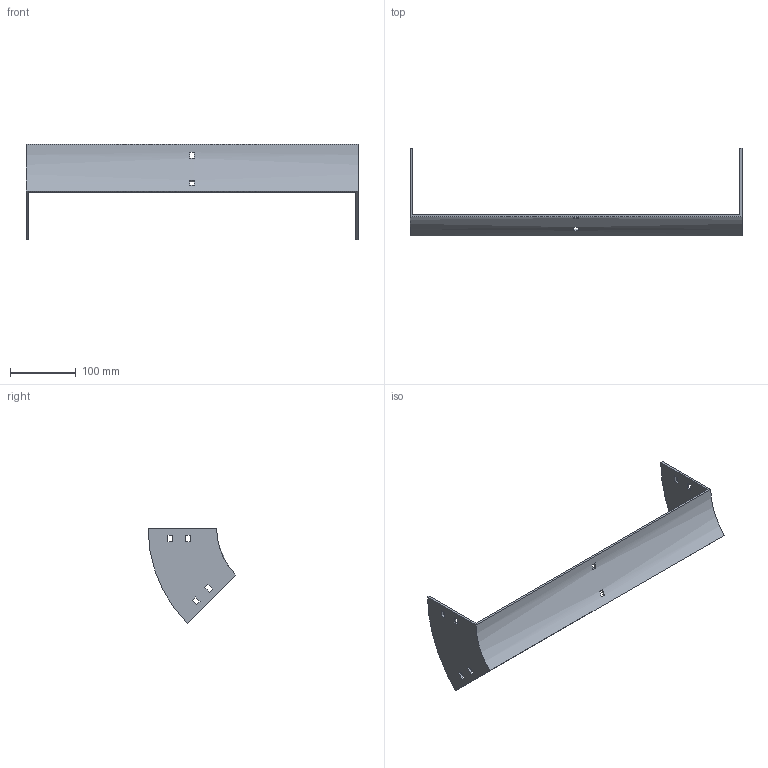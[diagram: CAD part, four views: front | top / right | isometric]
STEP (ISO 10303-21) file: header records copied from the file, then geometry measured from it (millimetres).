
FILE_DESCRIPTION (( 'STEP AP214' ), '1' );
FILE_NAME ('34B1D500.step', '2025-02-21T09:27:34', ( '' ), ( '' ), 'SwSTEP 2.0', 'SolidWorks 2023', '' );
FILE_SCHEMA (( 'AUTOMOTIVE_DESIGN' ));
Length unit declared in the file: millimetre
Products named in the file (1): 34B1D500
Bounding box: 504 x 133.29 x 144.25 mm (x, y, z)
Volume: 223544.7 mm3; surface area: 134958.8 mm2
Topology: 1 solids, 1 shells, 50 faces, 144 edges, 96 vertices
Faces by surface type: plane 46, cylinder 4
Entity records: 1687 total; most frequent: CARTESIAN_POINT 291, ORIENTED_EDGE 288, DIRECTION 262, EDGE_CURVE 144, LINE 128, VECTOR 128, VERTEX_POINT 96, EDGE_LOOP 70
